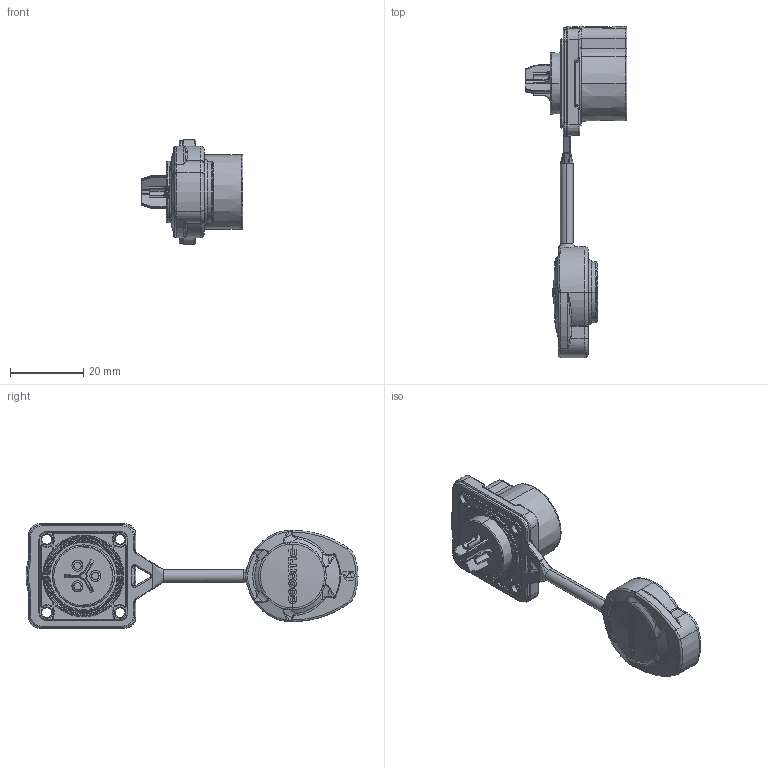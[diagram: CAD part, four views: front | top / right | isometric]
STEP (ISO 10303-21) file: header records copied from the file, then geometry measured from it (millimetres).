
FILE_DESCRIPTION (( 'STEP AP203' ), '1' );
FILE_NAME ('PLG16 3芯四孔安装插座反装.STEP', '2025-11-17T06:08:24', ( '' ), ( '' ), 'SwSTEP 2.0', 'SolidWorks 2024', '' );
FILE_SCHEMA (( 'CONFIG_CONTROL_DESIGN' ));
Length unit declared in the file: millimetre
Products named in the file (1): PLG16 3芯四孔安装插座反装
Bounding box: 27.8 x 90.57 x 28.5 mm (x, y, z)
Volume: 10618.4 mm3; surface area: 10120 mm2
Topology: 1 solids, 3 shells, 1450 faces, 3701 edges, 2277 vertices
Faces by surface type: cylinder 439, plane 366, torus 272, bspline 255, cone 101, sphere 17
Entity records: 51086 total; most frequent: CARTESIAN_POINT 17921, ORIENTED_EDGE 7354, DIRECTION 6531, EDGE_CURVE 3677, AXIS2_PLACEMENT_3D 2630, VERTEX_POINT 2275, EDGE_LOOP 1508, ADVANCED_FACE 1450
